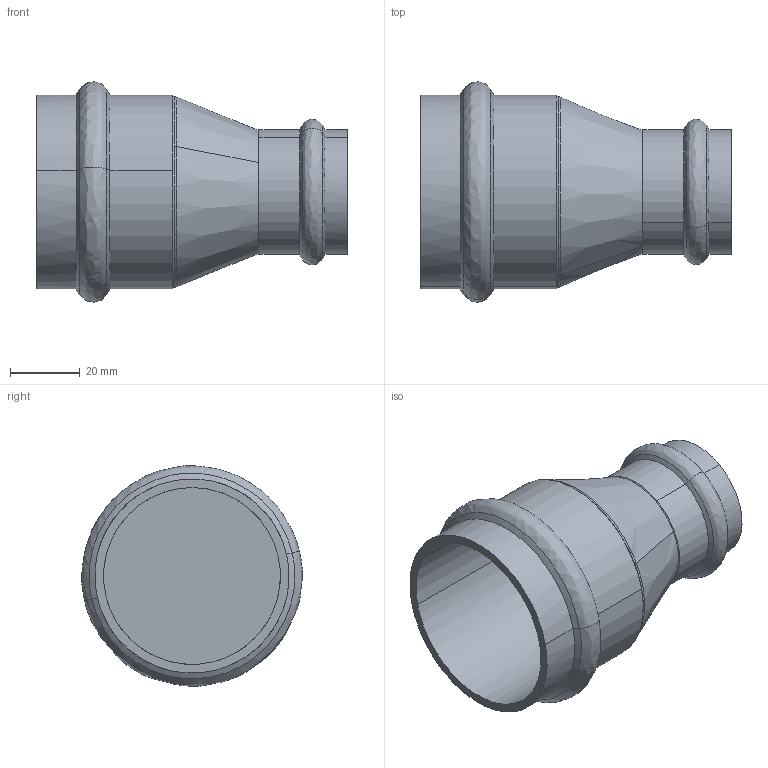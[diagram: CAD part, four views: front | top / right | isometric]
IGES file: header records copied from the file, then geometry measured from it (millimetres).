
Start section: 3D InterOp IGES (Version 25 0 1), Spatial Corp. Copyright (c) 1999-2007.
Global section: file name: pim0004386.igs; native system: Spatial Corp.; preprocessor: 3D InterOp ACIS/IGES; author: Cad-Pim; organization: TransMagic, Inc.; date: 20150430.132902; units: millimetre
Bounding box: 89 x 63.29 x 63.27 mm (x, y, z)
Volume: 69037.8 mm3; surface area: 26868.8 mm2
Topology: 1 solids, 1 shells, 36 faces, 93 edges, 61 vertices
Faces by surface type: cone 14, cylinder 12, bspline 10
